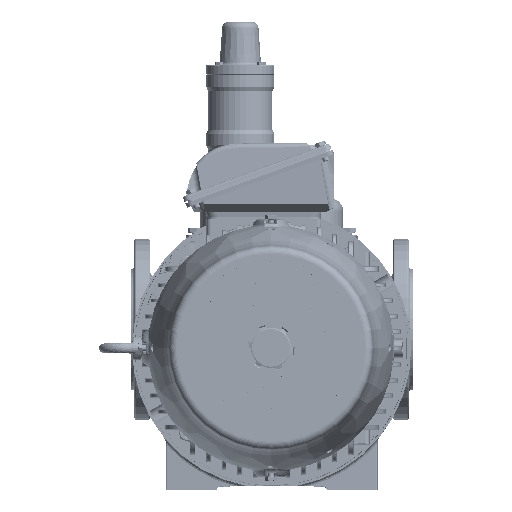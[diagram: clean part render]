
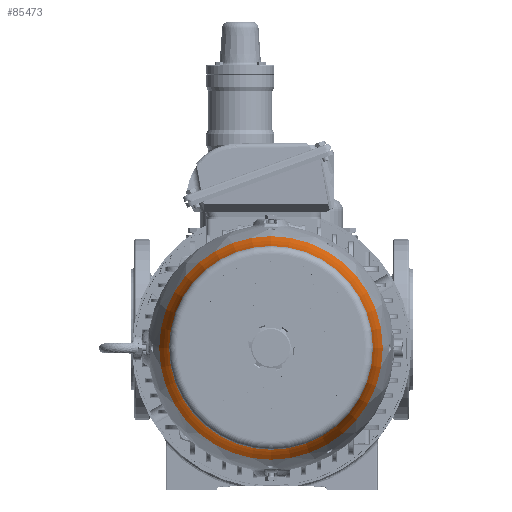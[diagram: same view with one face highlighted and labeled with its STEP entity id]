
A CAD part, top view. The second image highlights one B-rep face of the part: STEP entity #85473.
In plain terms, the highlighted toroidal (fillet/blend) face has major radius 308.616 mm and minor radius 180 mm.
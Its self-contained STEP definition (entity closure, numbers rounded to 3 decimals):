
#20=TOROIDAL_SURFACE('',#91620,308.617,180.);
#16127=FACE_OUTER_BOUND('',#21131,.T.);
#21131=EDGE_LOOP('',(#58344,#58345,#58346,#58347,#58348,#58349));
#26785=CIRCLE('',#91601,142.487);
#26786=CIRCLE('',#91602,142.487);
#26804=CIRCLE('',#91621,180.);
#26805=CIRCLE('',#91622,129.927);
#26806=CIRCLE('',#91623,129.927);
#35162=VERTEX_POINT('',#131805);
#35163=VERTEX_POINT('',#131809);
#35197=VERTEX_POINT('',#132099);
#35198=VERTEX_POINT('',#132101);
#44094=EDGE_CURVE('',#35162,#35163,#26785,.T.);
#44095=EDGE_CURVE('',#35163,#35162,#26786,.T.);
#44130=EDGE_CURVE('',#35162,#35197,#26804,.T.);
#44131=EDGE_CURVE('',#35197,#35198,#26805,.T.);
#44132=EDGE_CURVE('',#35198,#35197,#26806,.T.);
#58344=ORIENTED_EDGE('',*,*,#44095,.F.);
#58345=ORIENTED_EDGE('',*,*,#44094,.F.);
#58346=ORIENTED_EDGE('',*,*,#44130,.T.);
#58347=ORIENTED_EDGE('',*,*,#44131,.T.);
#58348=ORIENTED_EDGE('',*,*,#44132,.T.);
#58349=ORIENTED_EDGE('',*,*,#44130,.F.);
#85473=ADVANCED_FACE('',(#16127),#20,.F.);
#91601=AXIS2_PLACEMENT_3D('',#131810,#102905,#102906);
#91602=AXIS2_PLACEMENT_3D('',#131811,#102907,#102908);
#91620=AXIS2_PLACEMENT_3D('',#132098,#102943,#102944);
#91621=AXIS2_PLACEMENT_3D('',#132100,#102945,#102946);
#91622=AXIS2_PLACEMENT_3D('',#132102,#102947,#102948);
#91623=AXIS2_PLACEMENT_3D('',#132103,#102949,#102950);
#102905=DIRECTION('center_axis',(0.,0.,
-1.));
#102906=DIRECTION('ref_axis',(-1.,0.,0.));
#102907=DIRECTION('center_axis',(0.,0.,
-1.));
#102908=DIRECTION('ref_axis',(-1.,0.,0.));
#102943=DIRECTION('center_axis',(0.,0.,
-1.));
#102944=DIRECTION('ref_axis',(-1.,0.,0.));
#102945=DIRECTION('center_axis',(0.,1.,0.));
#102946=DIRECTION('ref_axis',(1.,0.,0.));
#102947=DIRECTION('center_axis',(0.,0.,
-1.));
#102948=DIRECTION('ref_axis',(-1.,0.,0.));
#102949=DIRECTION('center_axis',(0.,0.,
-1.));
#102950=DIRECTION('ref_axis',(-1.,0.,0.));
#131805=CARTESIAN_POINT('',(141.623,0.,553.399));
#131809=CARTESIAN_POINT('',(-143.35,0.,553.399));
#131810=CARTESIAN_POINT('Origin',(-0.863,0.,
553.399));
#131811=CARTESIAN_POINT('Origin',(-0.863,0.,
553.399));
#132098=CARTESIAN_POINT('Origin',(-0.863,0.,
622.687));
#132099=CARTESIAN_POINT('',(129.064,0.,601.005));
#132100=CARTESIAN_POINT('Origin',(307.753,0.,
622.687));
#132101=CARTESIAN_POINT('',(-130.791,0.,601.005));
#132102=CARTESIAN_POINT('Origin',(-0.863,0.,
601.005));
#132103=CARTESIAN_POINT('Origin',(-0.863,0.,
601.005));
